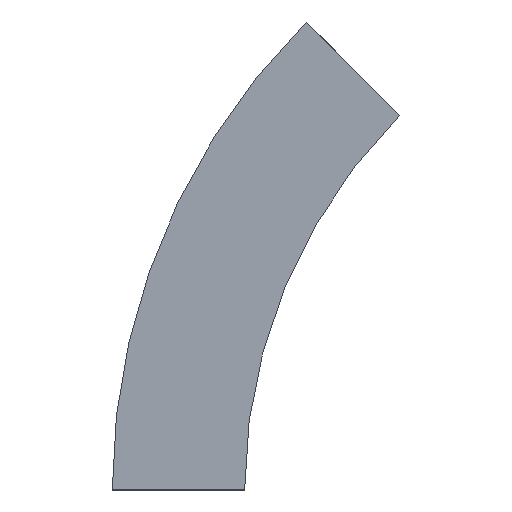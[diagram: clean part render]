
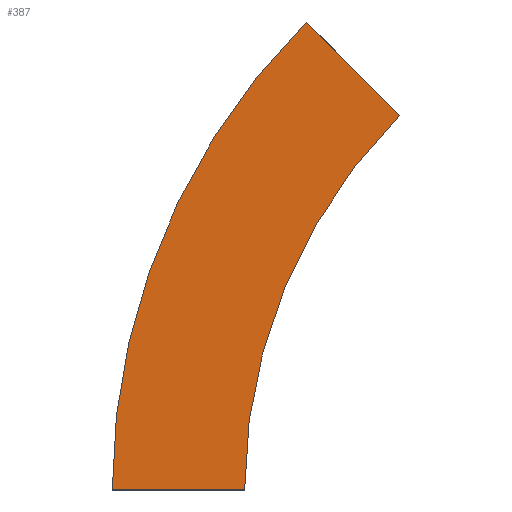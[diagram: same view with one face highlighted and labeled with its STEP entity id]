
A CAD part, left-side view. The second image highlights one B-rep face of the part: STEP entity #387.
In plain terms, the highlighted planar face has unit normal (-1, 0, 0) as drawn and (1, 0, 0) by its records, which use the part's own axes.
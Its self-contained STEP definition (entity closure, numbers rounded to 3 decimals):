
#36 = VECTOR ( 'NONE', #494, 1000. ) ;
#59 = PLANE ( 'NONE',  #485 ) ;
#63 = CARTESIAN_POINT ( 'NONE',  ( 0., 0., 0. ) ) ;
#67 = DIRECTION ( 'NONE',  ( 0., 1., 0. ) ) ;
#96 = DIRECTION ( 'NONE',  ( 1., 0., 0. ) ) ;
#100 = CARTESIAN_POINT ( 'NONE',  ( 0., 0., 0. ) ) ;
#110 = EDGE_CURVE ( 'NONE', #329, #442, #316, .T. ) ;
#121 = EDGE_CURVE ( 'NONE', #337, #442, #326, .T. ) ;
#126 = DIRECTION ( 'NONE',  ( 0., 1., 0. ) ) ;
#133 = VERTEX_POINT ( 'NONE', #100 ) ;
#154 = CARTESIAN_POINT ( 'NONE',  ( 0., 75., 0. ) ) ;
#159 = DIRECTION ( 'NONE',  ( 0., 1., 0. ) ) ;
#183 = CARTESIAN_POINT ( 'NONE',  ( 0., 0., 0. ) ) ;
#192 = FACE_OUTER_BOUND ( 'NONE', #414, .T. ) ;
#206 = CARTESIAN_POINT ( 'NONE',  ( 0., -87.868, 212.132 ) ) ;
#265 = CIRCLE ( 'NONE', #377, 300. ) ;
#272 = DIRECTION ( 'NONE',  ( 1., 0., 0. ) ) ;
#284 = ORIENTED_EDGE ( 'NONE', *, *, #110, .F. ) ;
#297 = CARTESIAN_POINT ( 'NONE',  ( 0., -34.835, 265.165 ) ) ;
#316 = LINE ( 'NONE', #206, #36 ) ;
#326 = CIRCLE ( 'NONE', #393, 375. ) ;
#329 = VERTEX_POINT ( 'NONE', #488 ) ;
#337 = VERTEX_POINT ( 'NONE', #154 ) ;
#362 = ORIENTED_EDGE ( 'NONE', *, *, #395, .F. ) ;
#367 = CARTESIAN_POINT ( 'NONE',  ( 0., -300., 0. ) ) ;
#377 = AXIS2_PLACEMENT_3D ( 'NONE', #495, #272, #67 ) ;
#387 = ADVANCED_FACE ( 'NONE', ( #192 ), #59, .T. ) ;
#393 = AXIS2_PLACEMENT_3D ( 'NONE', #367, #545, #159 ) ;
#395 = EDGE_CURVE ( 'NONE', #133, #329, #265, .T. ) ;
#399 = VECTOR ( 'NONE', #126, 1000. ) ;
#414 = EDGE_LOOP ( 'NONE', ( #419, #284, #362, #462 ) ) ;
#419 = ORIENTED_EDGE ( 'NONE', *, *, #121, .T. ) ;
#424 = LINE ( 'NONE', #183, #399 ) ;
#442 = VERTEX_POINT ( 'NONE', #297 ) ;
#446 = DIRECTION ( 'NONE',  ( 0., 0., -1. ) ) ;
#462 = ORIENTED_EDGE ( 'NONE', *, *, #515, .T. ) ;
#485 = AXIS2_PLACEMENT_3D ( 'NONE', #63, #96, #446 ) ;
#488 = CARTESIAN_POINT ( 'NONE',  ( 0., -87.868, 212.132 ) ) ;
#494 = DIRECTION ( 'NONE',  ( 0., 0.707, 0.707 ) ) ;
#495 = CARTESIAN_POINT ( 'NONE',  ( 0., -300., 0. ) ) ;
#515 = EDGE_CURVE ( 'NONE', #133, #337, #424, .T. ) ;
#545 = DIRECTION ( 'NONE',  ( 1., 0., 0. ) ) ;
